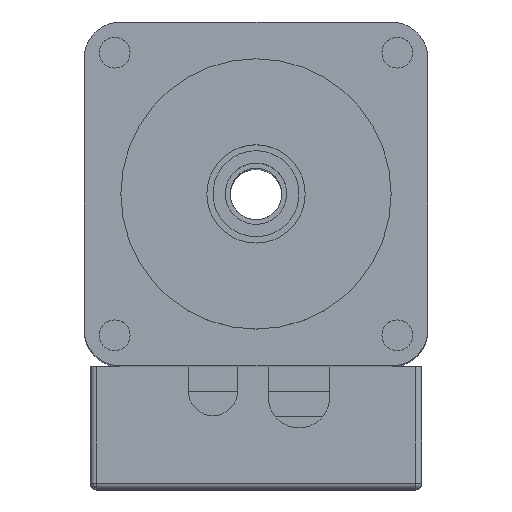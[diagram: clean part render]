
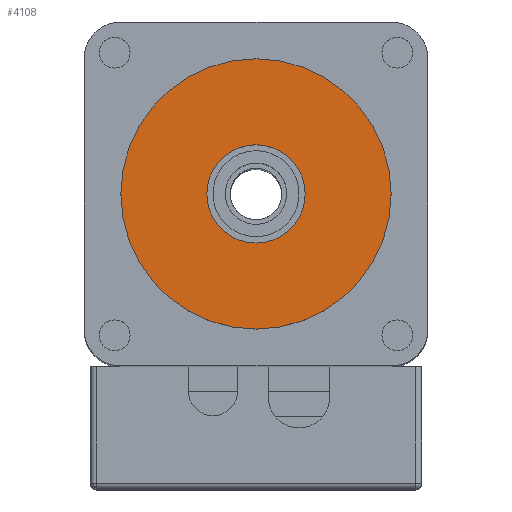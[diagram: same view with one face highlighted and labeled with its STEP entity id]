
A CAD part, top view. The second image highlights one B-rep face of the part: STEP entity #4108.
In plain terms, the highlighted planar face has unit normal (0, 0, 1).
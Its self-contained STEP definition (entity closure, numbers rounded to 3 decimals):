
#282 = CARTESIAN_POINT ( 'NONE',  ( 0., 0., 47. ) ) ;
#333 = CARTESIAN_POINT ( 'NONE',  ( 11., 0., 47. ) ) ;
#511 = DIRECTION ( 'NONE',  ( 0., 0., -1. ) ) ;
#729 = DIRECTION ( 'NONE',  ( 0., 0., -1. ) ) ;
#1029 = CARTESIAN_POINT ( 'NONE',  ( -4., 0., 47. ) ) ;
#1183 = EDGE_LOOP ( 'NONE', ( #6820, #8960 ) ) ;
#1238 = EDGE_CURVE ( 'NONE', #11117, #5852, #5080, .T. ) ;
#2037 = DIRECTION ( 'NONE',  ( -1., 0., 0. ) ) ;
#2803 = CARTESIAN_POINT ( 'NONE',  ( 0., 0., 47. ) ) ;
#2951 = VERTEX_POINT ( 'NONE', #7161 ) ;
#3711 = FACE_BOUND ( 'NONE', #11080, .T. ) ;
#3909 = ORIENTED_EDGE ( 'NONE', *, *, #4626, .T. ) ;
#4078 = DIRECTION ( 'NONE',  ( 1., 0., 0. ) ) ;
#4108 = ADVANCED_FACE ( 'NONE', ( #4259, #3711 ), #8528, .T. ) ;
#4144 = CIRCLE ( 'NONE', #8781, 4. ) ;
#4160 = DIRECTION ( 'NONE',  ( 0., 0., 1. ) ) ;
#4259 = FACE_OUTER_BOUND ( 'NONE', #1183, .T. ) ;
#4420 = EDGE_CURVE ( 'NONE', #5852, #11117, #9496, .T. ) ;
#4626 = EDGE_CURVE ( 'NONE', #4895, #2951, #4144, .T. ) ;
#4891 = CARTESIAN_POINT ( 'NONE',  ( 0., 0., 47. ) ) ;
#4895 = VERTEX_POINT ( 'NONE', #1029 ) ;
#5080 = CIRCLE ( 'NONE', #8412, 11. ) ;
#5852 = VERTEX_POINT ( 'NONE', #333 ) ;
#5870 = ORIENTED_EDGE ( 'NONE', *, *, #8675, .T. ) ;
#5897 = DIRECTION ( 'NONE',  ( 1., 0., 0. ) ) ;
#6222 = DIRECTION ( 'NONE',  ( -1., 0., 0. ) ) ;
#6820 = ORIENTED_EDGE ( 'NONE', *, *, #1238, .F. ) ;
#7111 = DIRECTION ( 'NONE',  ( 0., 0., -1. ) ) ;
#7161 = CARTESIAN_POINT ( 'NONE',  ( 4., 0., 47. ) ) ;
#7281 = DIRECTION ( 'NONE',  ( 0., 0., -1. ) ) ;
#7802 = AXIS2_PLACEMENT_3D ( 'NONE', #282, #7281, #2037 ) ;
#8412 = AXIS2_PLACEMENT_3D ( 'NONE', #2803, #7111, #6222 ) ;
#8528 = PLANE ( 'NONE',  #10624 ) ;
#8675 = EDGE_CURVE ( 'NONE', #2951, #4895, #9367, .T. ) ;
#8781 = AXIS2_PLACEMENT_3D ( 'NONE', #11194, #729, #5897 ) ;
#8960 = ORIENTED_EDGE ( 'NONE', *, *, #4420, .F. ) ;
#9233 = AXIS2_PLACEMENT_3D ( 'NONE', #4891, #511, #4078 ) ;
#9367 = CIRCLE ( 'NONE', #9233, 4. ) ;
#9425 = CARTESIAN_POINT ( 'NONE',  ( 0., 0., 47. ) ) ;
#9496 = CIRCLE ( 'NONE', #7802, 11. ) ;
#9937 = CARTESIAN_POINT ( 'NONE',  ( -11., 0., 47. ) ) ;
#10309 = DIRECTION ( 'NONE',  ( 1., 0., 0. ) ) ;
#10624 = AXIS2_PLACEMENT_3D ( 'NONE', #9425, #4160, #10309 ) ;
#11080 = EDGE_LOOP ( 'NONE', ( #5870, #3909 ) ) ;
#11117 = VERTEX_POINT ( 'NONE', #9937 ) ;
#11194 = CARTESIAN_POINT ( 'NONE',  ( 0., 0., 47. ) ) ;
